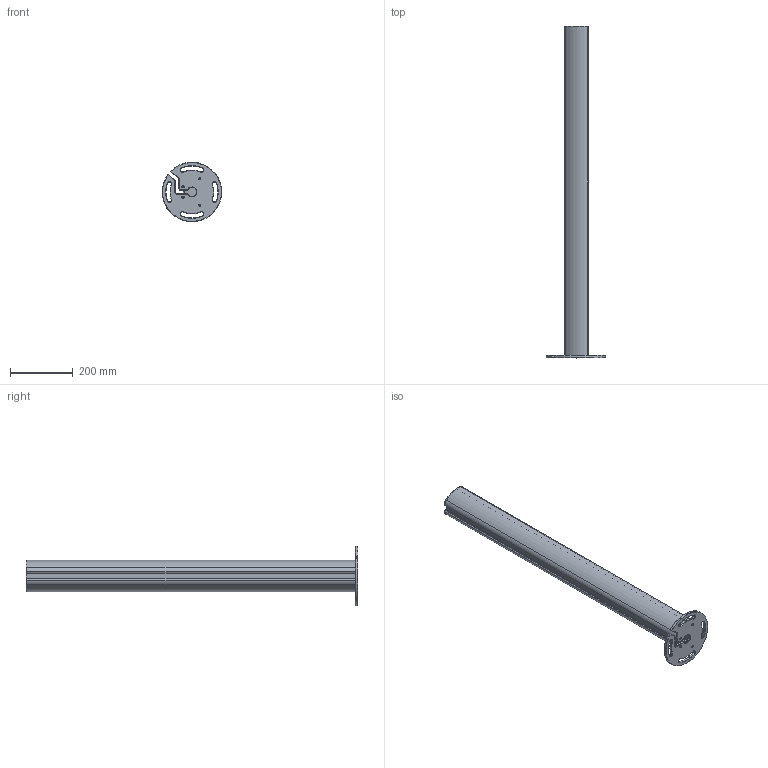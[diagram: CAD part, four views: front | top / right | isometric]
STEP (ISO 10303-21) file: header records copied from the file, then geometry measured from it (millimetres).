
FILE_DESCRIPTION((''),'2;1');
FILE_NAME('ESQC_ASM','2022-07-19T11:55:39',('18822879468'),(''),'CREO PARAMETRIC BY PTC INC, 2019010','CREO PARAMETRIC BY PTC INC, 2019010','');
FILE_SCHEMA(('CONFIG_CONTROL_DESIGN'));
Length unit declared in the file: millimetre
Products named in the file (5): 00; _-0001; _-0002; 000; ESQC_ASM
Assembly tree (4 placements, depth 2):
  ESQC_ASM
    00
    _-0001
    _-0002
    000
Bounding box: 189.81 x 1060 x 189.85 mm (x, y, z)
Volume: 1600764 mm3; surface area: 838721.2 mm2
Topology: 4 solids, 4 shells, 239 faces, 613 edges, 378 vertices
Faces by surface type: cylinder 98, plane 73, cone 68
Entity records: 7388 total; most frequent: DIRECTION 1365, CARTESIAN_POINT 1235, ORIENTED_EDGE 1218, EDGE_CURVE 609, AXIS2_PLACEMENT_3D 508, VERTEX_POINT 378, VECTOR 349, LINE 349
